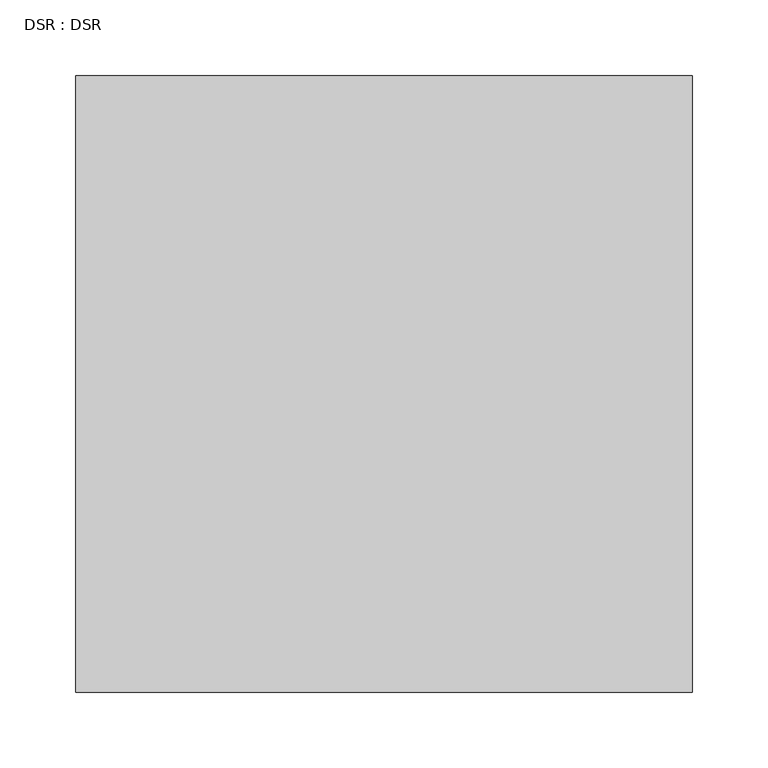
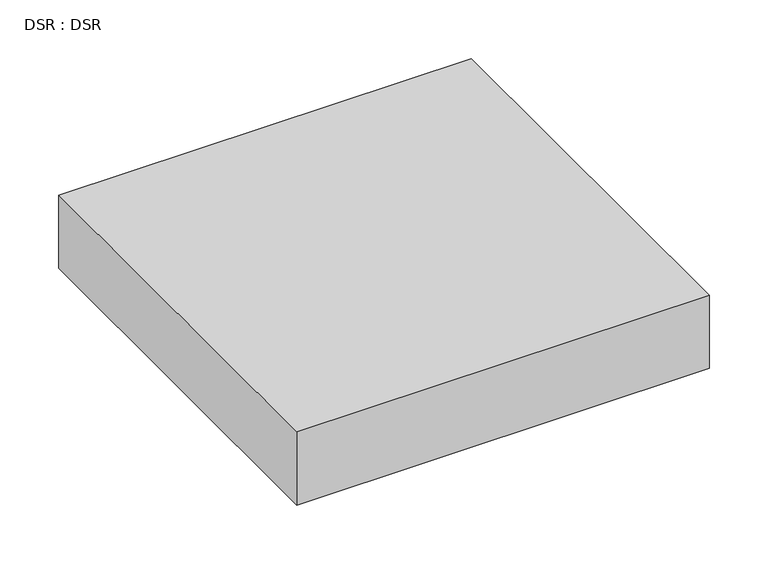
"""IFC4 building model written with IfcOpenShell, lengths in millimetres: air terminal geometry, DSR : DSR."""

import ifcopenshell
import ifcopenshell.guid

model = None  # the IFC model being written
_history = None  # IfcOwnerHistory: only IFC2X3 demands one
_inside = {}  # id of a spatial element -> (the spatial element, [elements in it])
_under = {}  # id of a project, library or spatial element -> (it, [spatial elements below it])
_declared = {}  # id of a project -> (the project, [libraries it declares])
_typed = {}  # id of a type object -> (the type object, [elements of that type])
_made_of = {}  # id of a material, layer set ... -> (it, [elements and type objects made of it])


def new_model(schema):
    """Start an empty IFC model of exactly this schema.

    Asked for "IFC4X3", IfcOpenShell would pick the latest addendum, in which some entities
    have other attributes; the version numbers below select the first issue.
    IFC2X3 requires an IfcOwnerHistory on every rooted entity: one is made here for all.
    """
    global model, _history
    if schema == "IFC4X3":
        model = ifcopenshell.file(schema_version=(4, 3, 0, 0))
    else:
        model = ifcopenshell.file(schema=schema)
    _inside.clear()
    _under.clear()
    _declared.clear()
    _typed.clear()
    _made_of.clear()
    _history = None
    if model.schema == "IFC2X3":
        org = make("IfcOrganization", Name="unknown")
        user = make(
            "IfcPersonAndOrganization",
            ThePerson=make("IfcPerson", FamilyName="unknown"),
            TheOrganization=org,
        )
        app = make(
            "IfcApplication",
            ApplicationDeveloper=org,
            Version="unknown",
            ApplicationFullName="unknown",
            ApplicationIdentifier="unknown",
        )
        _history = make(
            "IfcOwnerHistory",
            OwningUser=user,
            OwningApplication=app,
            ChangeAction="ADDED",
            CreationDate=0,
        )
    return model


def make(cls, **values):
    """One entity of the class cls with the attributes given. An attribute that is None is left unset."""
    return model.create_entity(
        cls, **{name: value for name, value in values.items() if value is not None}
    )


def rooted(cls, **values):
    """An entity with a GlobalId (a new one), such as an element, a storey or a relation."""
    return make(cls, GlobalId=ifcopenshell.guid.new(), OwnerHistory=_history, **values)


def si_unit(unit_type, name, prefix=None):
    """IfcSIUnit, for example si_unit("LENGTHUNIT", "METRE", prefix="MILLI")."""
    return make("IfcSIUnit", UnitType=unit_type, Prefix=prefix, Name=name)


def assignment(units):
    """IfcUnitAssignment: the units of a project."""
    return None if units is None else make("IfcUnitAssignment", Units=units)


def point(xyz):
    """IfcCartesianPoint."""
    return None if xyz is None else make("IfcCartesianPoint", Coordinates=xyz)


def direction(xyz):
    """IfcDirection."""
    return None if xyz is None else make("IfcDirection", DirectionRatios=xyz)


def frame(location, z_axis=None, x_axis=None):
    """IfcAxis2Placement3D, a coordinate frame: its origin and axes. An axis left out is left unset."""
    return make(
        "IfcAxis2Placement3D",
        Location=point(location),
        Axis=direction(z_axis),
        RefDirection=direction(x_axis),
    )


def origin():
    """The frame at (0, 0, 0) with its axes left unset."""
    return frame((0.0, 0.0, 0.0))


def place(relative_to, where):
    """IfcLocalPlacement: puts the frame where relative to a parent placement (None: the world)."""
    return make(
        "IfcLocalPlacement", PlacementRelTo=relative_to, RelativePlacement=where
    )


def context(
    kind, dimensions, precision=None, world=None, true_north=None, identifier=None
):
    """IfcGeometricRepresentationContext, for example the 3D "Model" context."""
    return make(
        "IfcGeometricRepresentationContext",
        ContextIdentifier=identifier,
        ContextType=kind,
        CoordinateSpaceDimension=dimensions,
        Precision=precision,
        WorldCoordinateSystem=world,
        TrueNorth=true_north,
    )


def project(units=None, contexts=None):
    """IfcProject with its units and contexts."""
    return rooted(
        "IfcProject",
        Name="project",
        RepresentationContexts=contexts,
        UnitsInContext=assignment(units),
    )


def spatial(cls, under=None, at=None, **own):
    """A site, building, storey or space (cls), placed at a placement, below another one or the project."""
    s = rooted(cls, ObjectPlacement=at, **own)
    if under is not None:
        _under.setdefault(under.id(), (under, []))[1].append(s)
    return s


def polyline(points):
    """IfcPolyline through the points."""
    return make("IfcPolyline", Points=[point(p) for p in points])


def outline(outer, holes=None, kind="AREA"):
    """IfcArbitraryClosedProfileDef: a profile drawn as a closed curve; with holes, ...WithVoids."""
    if holes is None:
        return make("IfcArbitraryClosedProfileDef", ProfileType=kind, OuterCurve=outer)
    return make(
        "IfcArbitraryProfileDefWithVoids",
        ProfileType=kind,
        OuterCurve=outer,
        InnerCurves=holes,
    )


def extrude(swept, where, along, depth):
    """IfcExtrudedAreaSolid: the profile swept, set in the frame where, extruded along a direction by depth."""
    return make(
        "IfcExtrudedAreaSolid",
        SweptArea=swept,
        Position=where,
        ExtrudedDirection=direction(along),
        Depth=depth,
    )


def shape(context_of_items, identifier, shape_type, items):
    """IfcShapeRepresentation: the items that make up one representation, for example the "Body"."""
    return make(
        "IfcShapeRepresentation",
        ContextOfItems=context_of_items,
        RepresentationIdentifier=identifier,
        RepresentationType=shape_type,
        Items=items,
    )


def source(mapping_origin, context_of_items, identifier, shape_type, items):
    """IfcRepresentationMap: a shape defined once, which mapped items show again and again."""
    return make(
        "IfcRepresentationMap",
        MappingOrigin=mapping_origin,
        MappedRepresentation=shape(context_of_items, identifier, shape_type, items),
    )


def transform(
    local_origin,
    x_axis=None,
    y_axis=None,
    z_axis=None,
    scale=None,
    scale2=None,
    scale3=None,
    uniform=True,
):
    """IfcCartesianTransformationOperator3D, or its non-uniform kind. x_axis, y_axis, z_axis: its Axis1, 2, 3."""
    if uniform:
        return make(
            "IfcCartesianTransformationOperator3D",
            Axis1=direction(x_axis),
            Axis2=direction(y_axis),
            LocalOrigin=point(local_origin),
            Scale=scale,
            Axis3=direction(z_axis),
        )
    return make(
        "IfcCartesianTransformationOperator3DnonUniform",
        Axis1=direction(x_axis),
        Axis2=direction(y_axis),
        LocalOrigin=point(local_origin),
        Scale=scale,
        Axis3=direction(z_axis),
        Scale2=scale2,
        Scale3=scale3,
    )


def mapped(mapping_source, mapping_target):
    """IfcMappedItem: shows the shape of a source again, moved by a transform."""
    return make(
        "IfcMappedItem", MappingSource=mapping_source, MappingTarget=mapping_target
    )


def made_of(thing, what):
    """Note that an element or type object is made of a material, layer set ...; save() writes the relation."""
    if what is not None:
        _made_of.setdefault(what.id(), (what, []))[1].append(thing)
    return thing


def element(
    cls,
    number,
    at=None,
    inside=None,
    cuts=None,
    type_object=None,
    material=None,
    context=None,
    identifier="Body",
    shape_type=None,
    held_by="IfcProductDefinitionShape",
    body=None,
    shapes=None,
    **own,
):
    """One element of the class cls, such as IfcWall. Its Tag is "e" and its number.

    at: its placement. inside: the storey or other place that contains it. cuts: it is an
    opening in that element (IfcRelVoidsElement). A single representation is given by context,
    identifier, shape_type and body (its items); several are given by shapes. held_by: the class
    of the entity that holds the representations. save() writes the other relations.
    """
    e = rooted(cls, Tag="e%d" % number, ObjectPlacement=at, **own)
    if body is not None:
        shapes = [shape(context, identifier, shape_type, body)]
    if shapes is not None:
        e.Representation = make(held_by, Representations=shapes)
    if inside is not None:
        _inside.setdefault(inside.id(), (inside, []))[1].append(e)
    if cuts is not None:
        rooted(
            "IfcRelVoidsElement", RelatingBuildingElement=cuts, RelatedOpeningElement=e
        )
    if type_object is not None:
        _typed.setdefault(type_object.id(), (type_object, []))[1].append(e)
    return made_of(e, material)


def aggregate(whole, parts):
    """IfcRelAggregates: a whole, such as a stair, and the parts it consists of."""
    return rooted("IfcRelAggregates", RelatingObject=whole, RelatedObjects=parts)


def save(model, path):
    """Write the relations noted so far, then the file.

    IfcRelAggregates (storeys below a building ...), IfcRelContainedInSpatialStructure (elements
    in a storey), IfcRelDefinesByType, IfcRelAssociatesMaterial and IfcRelDeclares: one each for
    every whole, place, type object, material and project.
    """
    for whole, parts in _under.values():
        aggregate(whole, parts)
    for where, things in _inside.values():
        rooted(
            "IfcRelContainedInSpatialStructure",
            RelatedElements=things,
            RelatingStructure=where,
        )
    for kind, things in _typed.values():
        rooted("IfcRelDefinesByType", RelatedObjects=things, RelatingType=kind)
    for what, things in _made_of.values():
        rooted("IfcRelAssociatesMaterial", RelatedObjects=things, RelatingMaterial=what)
    for by, libraries in _declared.values():
        rooted("IfcRelDeclares", RelatingContext=by, RelatedDefinitions=libraries)
    model.write(path)


def dsr_dsr_a080a00d(model_context):
    return source(origin(), model_context, "Body", "SweptSolid", [
        extrude(outline(polyline([(203.2, 203.2), (203.2, -203.2), (-203.2, -203.2), (-203.2, 203.2), (203.2, 203.2)])), frame((0.0, 0.0, -76.2), z_axis=(0.0, 0.0, 1.0), x_axis=(1.0, 0.0, 0.0)), (0.0, 0.0, 1.0), 76.2),
    ])


if __name__ == "__main__":
    model = new_model("IFC4")
    model_context = context("Model", 3, world=origin())
    ifc_project = project(units=[si_unit("LENGTHUNIT", "METRE", prefix="MILLI")], contexts=[model_context])
    site = spatial("IfcSite", under=ifc_project)
    building = spatial("IfcBuilding", under=site)
    placement = place(None, origin())
    dsr_dsr_shape = dsr_dsr_a080a00d(model_context)
    element("IfcAirTerminal", 1, ObjectType="DSR : DSR", at=placement, inside=building, context=model_context, shape_type="MappedRepresentation", body=[
        mapped(dsr_dsr_shape, transform((0.0, 0.0, 0.0), x_axis=(1.0, 0.0, 0.0), y_axis=(0.0, 1.0, 0.0), z_axis=(0.0, 0.0, 1.0))),
    ])
    save(model, "model.ifc")
